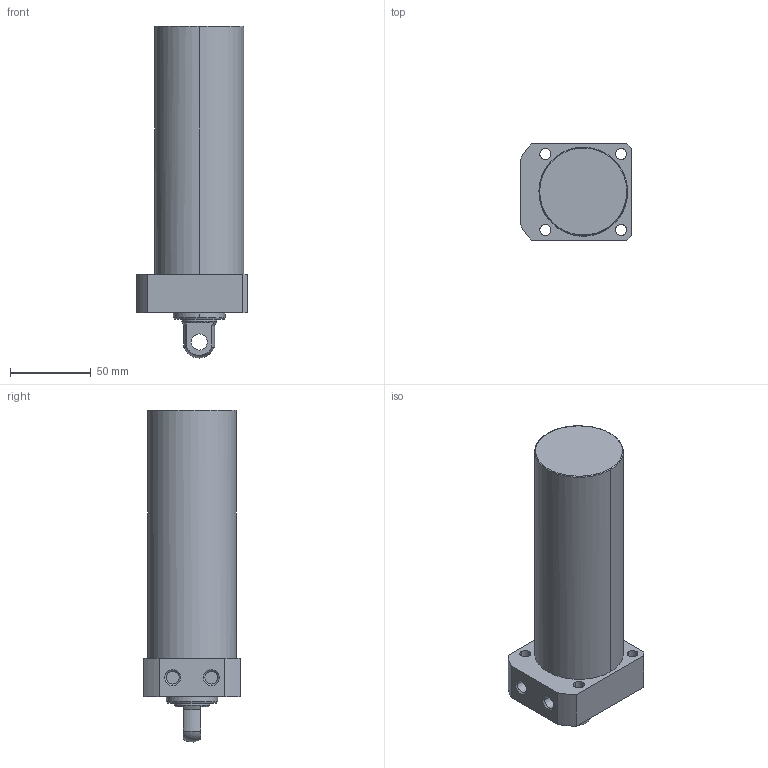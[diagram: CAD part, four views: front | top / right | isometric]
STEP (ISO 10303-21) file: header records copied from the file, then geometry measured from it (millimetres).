
FILE_DESCRIPTION((' '),'2;1');
FILE_NAME( 'TLLR-055CP-125.STEP.stp', '2025-10-24T16:34:52', (' '), ('--- Datakit www.datakit.com---'), ' Datakit CrossCadWare V2024.1 Dec 21 2023', 'Mastercam 2025', ' ');
FILE_SCHEMA(('AUTOMOTIVE_DESIGN { 1 0 10303 214 1 1 1 1 }'));
Length unit declared in the file: millimetre
Products named in the file (1): TLLR-055CP-125
Bounding box: 69 x 60 x 205.93 mm (x, y, z)
Volume: 465401.6 mm3; surface area: 44827.4 mm2
Topology: 1 solids, 1 shells, 57 faces, 164 edges, 116 vertices
Faces by surface type: cylinder 28, plane 18, cone 8, torus 2, sphere 1
Entity records: 2006 total; most frequent: DIRECTION 378, CARTESIAN_POINT 350, ORIENTED_EDGE 328, EDGE_CURVE 164, AXIS2_PLACEMENT_3D 160, VERTEX_POINT 116, CIRCLE 102, EDGE_LOOP 74
